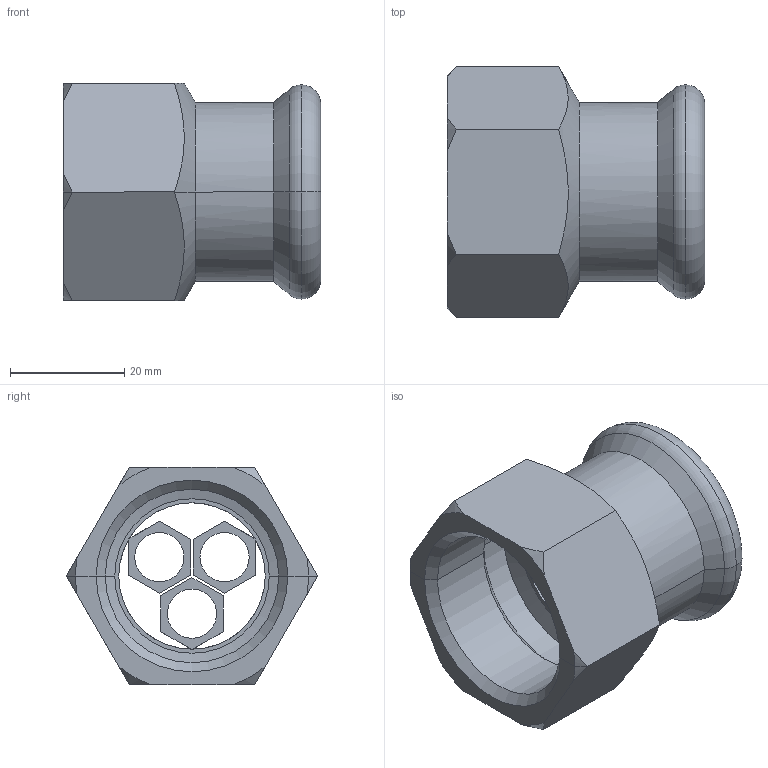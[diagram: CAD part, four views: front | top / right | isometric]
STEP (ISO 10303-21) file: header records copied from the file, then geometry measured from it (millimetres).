
FILE_DESCRIPTION(('OneSpaceDesigner STEP Export'),'2;1');
FILE_NAME('R2702 28xRp1.stp','2010-06-08T14:27:01',(''),(''),'OneSpace Designer STEP processor for AP214 (Solid Model)','OneSpace Modeling 15.00A 14-Mar-2007 (C) CoCreate Software GmbH','');
FILE_SCHEMA(('AUTOMOTIVE_DESIGN { 1 0 10303 214 1 1 1 1 }'));
Length unit declared in the file: millimetre
Products named in the file (2): R2702_28xRp1
Assembly tree (1 placements, depth 2):
  R2702_28xRp1
    R2702_28xRp1
Bounding box: 45 x 43.88 x 38 mm (x, y, z)
Volume: 16061.6 mm3; surface area: 11681.7 mm2
Topology: 1 solids, 1 shells, 85 faces, 227 edges, 145 vertices
Faces by surface type: plane 34, cylinder 25, cone 22, torus 4
Entity records: 4604 total; most frequent: CARTESIAN_POINT 2676, ORIENTED_EDGE 454, DIRECTION 296, EDGE_CURVE 227, VERTEX_POINT 145, VECTOR 112, LINE 112, EDGE_LOOP 94
